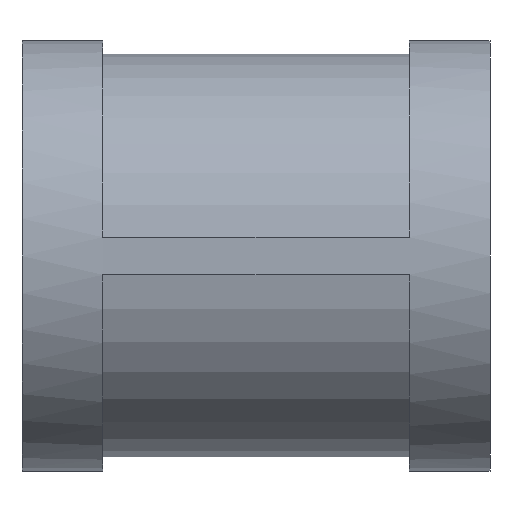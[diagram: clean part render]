
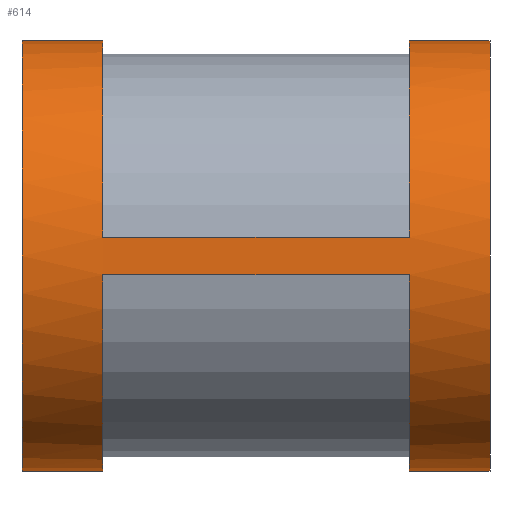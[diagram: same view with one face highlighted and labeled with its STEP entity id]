
A CAD part, front view. The second image highlights one B-rep face of the part: STEP entity #614.
In plain terms, the highlighted cylindrical face has radius 20 mm (diameter 40 mm), a partial arc.
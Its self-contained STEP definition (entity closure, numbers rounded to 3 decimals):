
#2 = DIRECTION ( 'NONE',  ( -1., 0., 0. ) ) ;
#6 = CARTESIAN_POINT ( 'NONE',  ( -21.75, 0., 20. ) ) ;
#10 = EDGE_CURVE ( 'NONE', #727, #740, #543, .T. ) ;
#17 = DIRECTION ( 'NONE',  ( 0., 0., 1. ) ) ;
#27 = CARTESIAN_POINT ( 'NONE',  ( -21.75, 0., 0. ) ) ;
#41 = ORIENTED_EDGE ( 'NONE', *, *, #10, .F. ) ;
#61 = CARTESIAN_POINT ( 'NONE',  ( -14.25, 0., 20. ) ) ;
#69 = CARTESIAN_POINT ( 'NONE',  ( 14.25, -19.923, 1.75 ) ) ;
#100 = AXIS2_PLACEMENT_3D ( 'NONE', #161, #2, #817 ) ;
#102 = ORIENTED_EDGE ( 'NONE', *, *, #394, .F. ) ;
#107 = CARTESIAN_POINT ( 'NONE',  ( 17.995, -19.923, -1.75 ) ) ;
#123 = ORIENTED_EDGE ( 'NONE', *, *, #430, .F. ) ;
#124 = AXIS2_PLACEMENT_3D ( 'NONE', #172, #440, #307 ) ;
#138 = EDGE_CURVE ( 'NONE', #565, #399, #166, .T. ) ;
#145 = DIRECTION ( 'NONE',  ( -1., 0., 0. ) ) ;
#148 = CARTESIAN_POINT ( 'NONE',  ( 21.75, 0., 20. ) ) ;
#154 = AXIS2_PLACEMENT_3D ( 'NONE', #697, #429, #291 ) ;
#156 = ORIENTED_EDGE ( 'NONE', *, *, #138, .T. ) ;
#161 = CARTESIAN_POINT ( 'NONE',  ( 14.25, 0., 0. ) ) ;
#166 = CIRCLE ( 'NONE', #717, 20. ) ;
#167 = CIRCLE ( 'NONE', #656, 20. ) ;
#168 = DIRECTION ( 'NONE',  ( -1., 0., 0. ) ) ;
#172 = CARTESIAN_POINT ( 'NONE',  ( 14.25, 0., 0. ) ) ;
#175 = DIRECTION ( 'NONE',  ( -1., 0., 0. ) ) ;
#186 = VERTEX_POINT ( 'NONE', #592 ) ;
#225 = CARTESIAN_POINT ( 'NONE',  ( 14.25, 0., -20. ) ) ;
#227 = DIRECTION ( 'NONE',  ( -1., 0., 0. ) ) ;
#234 = AXIS2_PLACEMENT_3D ( 'NONE', #596, #325, #667 ) ;
#238 = ORIENTED_EDGE ( 'NONE', *, *, #695, .F. ) ;
#239 = CARTESIAN_POINT ( 'NONE',  ( -4.962, 0., 20. ) ) ;
#245 = CIRCLE ( 'NONE', #124, 20. ) ;
#261 = AXIS2_PLACEMENT_3D ( 'NONE', #27, #303, #505 ) ;
#291 = DIRECTION ( 'NONE',  ( 0., 0., 1. ) ) ;
#303 = DIRECTION ( 'NONE',  ( -1., 0., 0. ) ) ;
#307 = DIRECTION ( 'NONE',  ( 0., 0., 1. ) ) ;
#310 = VECTOR ( 'NONE', #168, 1000. ) ;
#312 = LINE ( 'NONE', #107, #374 ) ;
#314 = VERTEX_POINT ( 'NONE', #148 ) ;
#325 = DIRECTION ( 'NONE',  ( -1., 0., 0. ) ) ;
#332 = EDGE_CURVE ( 'NONE', #560, #740, #488, .T. ) ;
#334 = CARTESIAN_POINT ( 'NONE',  ( -14.25, 0., -20. ) ) ;
#340 = FACE_OUTER_BOUND ( 'NONE', #799, .T. ) ;
#350 = VECTOR ( 'NONE', #175, 1000. ) ;
#360 = LINE ( 'NONE', #477, #863 ) ;
#363 = LINE ( 'NONE', #783, #310 ) ;
#367 = CARTESIAN_POINT ( 'NONE',  ( -14.25, -19.923, -1.75 ) ) ;
#374 = VECTOR ( 'NONE', #431, 1000. ) ;
#376 = EDGE_CURVE ( 'NONE', #314, #186, #639, .T. ) ;
#394 = EDGE_CURVE ( 'NONE', #411, #768, #363, .T. ) ;
#399 = VERTEX_POINT ( 'NONE', #367 ) ;
#411 = VERTEX_POINT ( 'NONE', #644 ) ;
#413 = CARTESIAN_POINT ( 'NONE',  ( -4.962, 0., 20. ) ) ;
#429 = DIRECTION ( 'NONE',  ( -1., 0., 0. ) ) ;
#430 = EDGE_CURVE ( 'NONE', #444, #399, #312, .T. ) ;
#431 = DIRECTION ( 'NONE',  ( -1., 0., 0. ) ) ;
#440 = DIRECTION ( 'NONE',  ( -1., 0., 0. ) ) ;
#444 = VERTEX_POINT ( 'NONE', #777 ) ;
#445 = EDGE_CURVE ( 'NONE', #610, #673, #632, .T. ) ;
#449 = DIRECTION ( 'NONE',  ( -1., 0., 0. ) ) ;
#450 = CYLINDRICAL_SURFACE ( 'NONE', #234, 20. ) ;
#453 = EDGE_CURVE ( 'NONE', #610, #186, #245, .T. ) ;
#460 = ORIENTED_EDGE ( 'NONE', *, *, #812, .F. ) ;
#477 = CARTESIAN_POINT ( 'NONE',  ( -4.962, 0., -20. ) ) ;
#480 = CARTESIAN_POINT ( 'NONE',  ( -21.75, 0., -20. ) ) ;
#488 = LINE ( 'NONE', #413, #643 ) ;
#497 = CARTESIAN_POINT ( 'NONE',  ( 17.995, -19.923, 1.75 ) ) ;
#502 = CIRCLE ( 'NONE', #100, 20. ) ;
#505 = DIRECTION ( 'NONE',  ( 0., 0., 1. ) ) ;
#531 = ORIENTED_EDGE ( 'NONE', *, *, #750, .T. ) ;
#537 = CARTESIAN_POINT ( 'NONE',  ( -14.25, 0., 0. ) ) ;
#540 = ORIENTED_EDGE ( 'NONE', *, *, #445, .T. ) ;
#542 = CARTESIAN_POINT ( 'NONE',  ( -14.25, -19.923, 1.75 ) ) ;
#543 = CIRCLE ( 'NONE', #261, 20. ) ;
#544 = VECTOR ( 'NONE', #227, 1000. ) ;
#560 = VERTEX_POINT ( 'NONE', #61 ) ;
#561 = CIRCLE ( 'NONE', #154, 20. ) ;
#565 = VERTEX_POINT ( 'NONE', #334 ) ;
#592 = CARTESIAN_POINT ( 'NONE',  ( 14.25, 0., 20. ) ) ;
#596 = CARTESIAN_POINT ( 'NONE',  ( -4.962, 0., 0. ) ) ;
#610 = VERTEX_POINT ( 'NONE', #69 ) ;
#614 = ADVANCED_FACE ( 'NONE', ( #340 ), #450, .T. ) ;
#627 = DIRECTION ( 'NONE',  ( -1., 0., 0. ) ) ;
#632 = LINE ( 'NONE', #497, #350 ) ;
#639 = LINE ( 'NONE', #239, #544 ) ;
#643 = VECTOR ( 'NONE', #627, 1000. ) ;
#644 = CARTESIAN_POINT ( 'NONE',  ( 21.75, 0., -20. ) ) ;
#656 = AXIS2_PLACEMENT_3D ( 'NONE', #830, #145, #17 ) ;
#667 = DIRECTION ( 'NONE',  ( 0., 0., 1. ) ) ;
#673 = VERTEX_POINT ( 'NONE', #542 ) ;
#681 = ORIENTED_EDGE ( 'NONE', *, *, #332, .T. ) ;
#693 = DIRECTION ( 'NONE',  ( -1., 0., 0. ) ) ;
#695 = EDGE_CURVE ( 'NONE', #565, #727, #360, .T. ) ;
#697 = CARTESIAN_POINT ( 'NONE',  ( -14.25, 0., 0. ) ) ;
#715 = ORIENTED_EDGE ( 'NONE', *, *, #739, .T. ) ;
#717 = AXIS2_PLACEMENT_3D ( 'NONE', #537, #449, #728 ) ;
#727 = VERTEX_POINT ( 'NONE', #480 ) ;
#728 = DIRECTION ( 'NONE',  ( 0., 0., 1. ) ) ;
#739 = EDGE_CURVE ( 'NONE', #673, #560, #561, .T. ) ;
#740 = VERTEX_POINT ( 'NONE', #6 ) ;
#750 = EDGE_CURVE ( 'NONE', #411, #314, #167, .T. ) ;
#757 = ORIENTED_EDGE ( 'NONE', *, *, #376, .T. ) ;
#768 = VERTEX_POINT ( 'NONE', #225 ) ;
#777 = CARTESIAN_POINT ( 'NONE',  ( 14.25, -19.923, -1.75 ) ) ;
#783 = CARTESIAN_POINT ( 'NONE',  ( -4.962, 0., -20. ) ) ;
#799 = EDGE_LOOP ( 'NONE', ( #102, #531, #757, #861, #540, #715, #681, #41, #238, #156, #123, #460 ) ) ;
#812 = EDGE_CURVE ( 'NONE', #768, #444, #502, .T. ) ;
#817 = DIRECTION ( 'NONE',  ( 0., 0., 1. ) ) ;
#830 = CARTESIAN_POINT ( 'NONE',  ( 21.75, 0., 0. ) ) ;
#861 = ORIENTED_EDGE ( 'NONE', *, *, #453, .F. ) ;
#863 = VECTOR ( 'NONE', #693, 1000. ) ;
